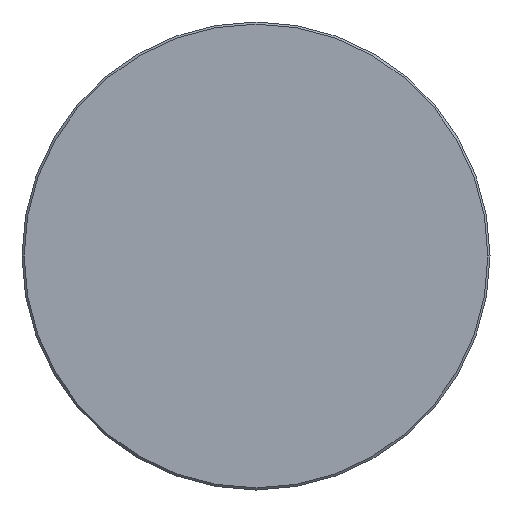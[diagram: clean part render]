
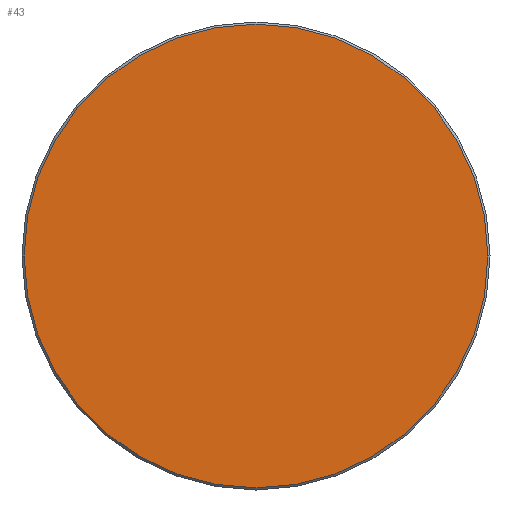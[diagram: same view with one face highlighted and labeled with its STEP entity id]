
A CAD part, left-side view. The second image highlights one B-rep face of the part: STEP entity #43.
In plain terms, the highlighted planar face has unit normal (-1, 0, 0).
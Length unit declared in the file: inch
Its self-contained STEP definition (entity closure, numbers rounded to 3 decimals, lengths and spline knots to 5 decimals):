
#29 = FACE_OUTER_BOUND ( 'NONE', #244, .T. ) ;
#43 = ADVANCED_FACE ( 'NONE', ( #29 ), #338, .T. ) ;
#54 = VERTEX_POINT ( 'NONE', #193 ) ;
#73 = EDGE_CURVE ( 'NONE', #54, #147, #78, .T. ) ;
#78 = CIRCLE ( 'NONE', #256, 0.4335 ) ;
#88 = DIRECTION ( 'NONE',  ( -1., 0., 0. ) ) ;
#91 = CARTESIAN_POINT ( 'NONE',  ( 0., 0., 0. ) ) ;
#109 = DIRECTION ( 'NONE',  ( 0., -1., 0. ) ) ;
#147 = VERTEX_POINT ( 'NONE', #349 ) ;
#166 = CARTESIAN_POINT ( 'NONE',  ( 0., 0., 0. ) ) ;
#193 = CARTESIAN_POINT ( 'NONE',  ( 0., 0.4335, 0. ) ) ;
#221 = EDGE_CURVE ( 'NONE', #147, #54, #279, .T. ) ;
#229 = ORIENTED_EDGE ( 'NONE', *, *, #73, .T. ) ;
#230 = DIRECTION ( 'NONE',  ( 0., -1., 0. ) ) ;
#244 = EDGE_LOOP ( 'NONE', ( #229, #268 ) ) ;
#253 = AXIS2_PLACEMENT_3D ( 'NONE', #91, #88, #230 ) ;
#254 = DIRECTION ( 'NONE',  ( -1., 0., 0. ) ) ;
#256 = AXIS2_PLACEMENT_3D ( 'NONE', #379, #254, #283 ) ;
#268 = ORIENTED_EDGE ( 'NONE', *, *, #221, .T. ) ;
#279 = CIRCLE ( 'NONE', #253, 0.4335 ) ;
#283 = DIRECTION ( 'NONE',  ( 0., -1., 0. ) ) ;
#302 = AXIS2_PLACEMENT_3D ( 'NONE', #166, #373, #109 ) ;
#338 = PLANE ( 'NONE',  #302 ) ;
#349 = CARTESIAN_POINT ( 'NONE',  ( 0., -0.4335, 0. ) ) ;
#373 = DIRECTION ( 'NONE',  ( -1., 0., 0. ) ) ;
#379 = CARTESIAN_POINT ( 'NONE',  ( 0., 0., 0. ) ) ;
